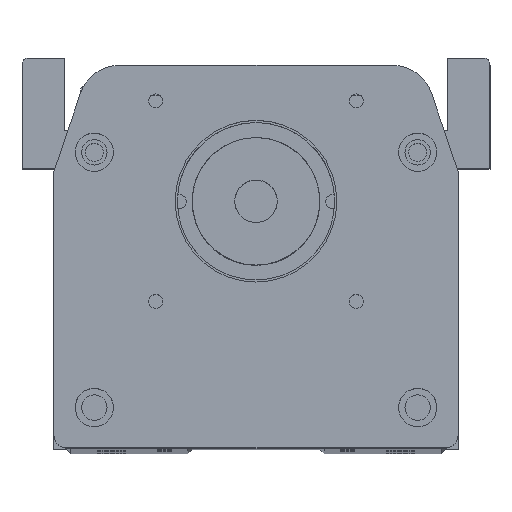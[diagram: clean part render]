
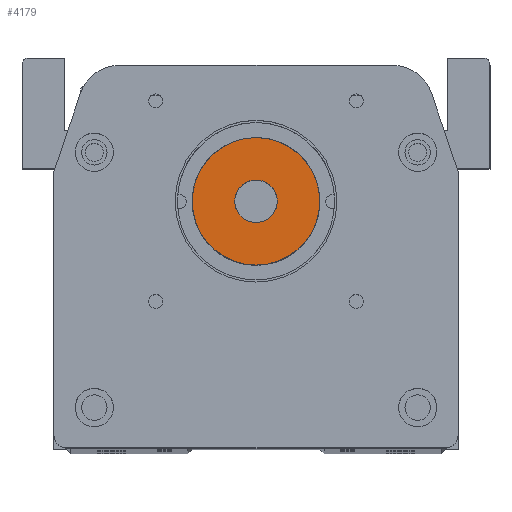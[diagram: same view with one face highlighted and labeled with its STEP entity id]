
A CAD part, top view. The second image highlights one B-rep face of the part: STEP entity #4179.
In plain terms, the highlighted planar face has unit normal (0, 0, 1).
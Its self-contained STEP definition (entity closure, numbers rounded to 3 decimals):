
#371 = EDGE_CURVE ( 'NONE', #37785, #9067, #3250, .T. ) ;
#1194 = CARTESIAN_POINT ( 'NONE',  ( -21.138, 0., 40.753 ) ) ;
#2538 = CARTESIAN_POINT ( 'NONE',  ( -6.16, 0., 40.753 ) ) ;
#2549 = FACE_OUTER_BOUND ( 'NONE', #13302, .T. ) ;
#2697 = VERTEX_POINT ( 'NONE', #43307 ) ;
#3250 = CIRCLE ( 'NONE', #37284, 14.978 ) ;
#4106 = CARTESIAN_POINT ( 'NONE',  ( -6.16, 0., 40.753 ) ) ;
#4179 = ADVANCED_FACE ( 'NONE', ( #2549, #10515 ), #25828, .T. ) ;
#5964 = DIRECTION ( 'NONE',  ( 1., 0., 0. ) ) ;
#6058 = AXIS2_PLACEMENT_3D ( 'NONE', #4106, #27839, #7530 ) ;
#7040 = ORIENTED_EDGE ( 'NONE', *, *, #12817, .T. ) ;
#7530 = DIRECTION ( 'NONE',  ( 1., 0., 0. ) ) ;
#8014 = ORIENTED_EDGE ( 'NONE', *, *, #38692, .F. ) ;
#8981 = DIRECTION ( 'NONE',  ( 1., 0., 0. ) ) ;
#9067 = VERTEX_POINT ( 'NONE', #1194 ) ;
#9586 = CIRCLE ( 'NONE', #6058, 5.003 ) ;
#10515 = FACE_BOUND ( 'NONE', #13353, .T. ) ;
#12817 = EDGE_CURVE ( 'NONE', #9067, #37785, #31304, .T. ) ;
#13182 = ORIENTED_EDGE ( 'NONE', *, *, #371, .T. ) ;
#13302 = EDGE_LOOP ( 'NONE', ( #7040, #13182 ) ) ;
#13316 = AXIS2_PLACEMENT_3D ( 'NONE', #2538, #26259, #5964 ) ;
#13353 = EDGE_LOOP ( 'NONE', ( #8014, #35978 ) ) ;
#15269 = DIRECTION ( 'NONE',  ( 0., 0., 1. ) ) ;
#17135 = CARTESIAN_POINT ( 'NONE',  ( -11.163, 0., 40.753 ) ) ;
#19427 = CARTESIAN_POINT ( 'NONE',  ( -6.16, 0., 40.753 ) ) ;
#20910 = EDGE_CURVE ( 'NONE', #2697, #24974, #9586, .T. ) ;
#21726 = AXIS2_PLACEMENT_3D ( 'NONE', #35618, #15269, #39040 ) ;
#24974 = VERTEX_POINT ( 'NONE', #17135 ) ;
#25828 = PLANE ( 'NONE',  #37691 ) ;
#26259 = DIRECTION ( 'NONE',  ( 0., 0., 1. ) ) ;
#27839 = DIRECTION ( 'NONE',  ( 0., 0., 1. ) ) ;
#29258 = DIRECTION ( 'NONE',  ( 0., 0., 1. ) ) ;
#29995 = DIRECTION ( 'NONE',  ( 1., 0., 0. ) ) ;
#31304 = CIRCLE ( 'NONE', #13316, 14.978 ) ;
#33803 = DIRECTION ( 'NONE',  ( 0., 0., 1. ) ) ;
#35618 = CARTESIAN_POINT ( 'NONE',  ( -6.16, 0., 40.753 ) ) ;
#35978 = ORIENTED_EDGE ( 'NONE', *, *, #20910, .F. ) ;
#37284 = AXIS2_PLACEMENT_3D ( 'NONE', #19427, #33803, #29995 ) ;
#37544 = CIRCLE ( 'NONE', #21726, 5.003 ) ;
#37691 = AXIS2_PLACEMENT_3D ( 'NONE', #39350, #29258, #8981 ) ;
#37785 = VERTEX_POINT ( 'NONE', #43193 ) ;
#38692 = EDGE_CURVE ( 'NONE', #24974, #2697, #37544, .T. ) ;
#39040 = DIRECTION ( 'NONE',  ( 1., 0., 0. ) ) ;
#39350 = CARTESIAN_POINT ( 'NONE',  ( -6.16, 0., 40.753 ) ) ;
#43193 = CARTESIAN_POINT ( 'NONE',  ( 8.817, 0., 40.753 ) ) ;
#43307 = CARTESIAN_POINT ( 'NONE',  ( -1.157, 0., 40.753 ) ) ;
